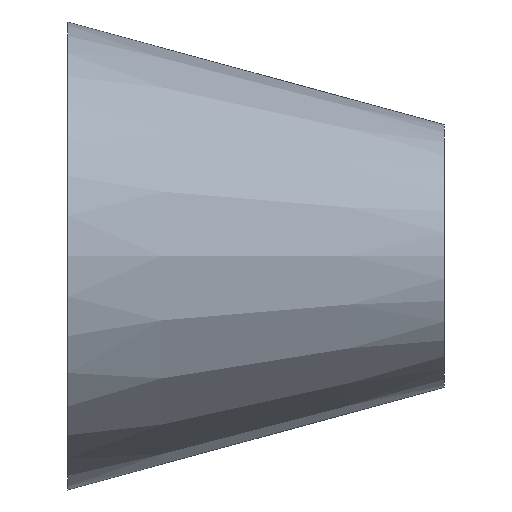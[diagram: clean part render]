
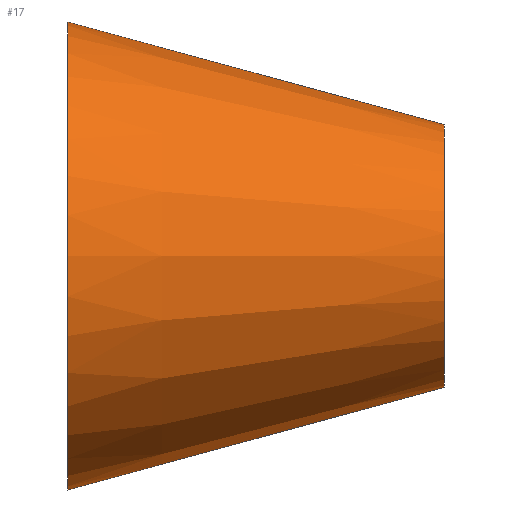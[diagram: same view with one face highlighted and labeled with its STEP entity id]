
A CAD part, front view. The second image highlights one B-rep face of the part: STEP entity #17.
In plain terms, the highlighted conical face has half-angle 15.255 degrees and reference radius 20.5 mm.
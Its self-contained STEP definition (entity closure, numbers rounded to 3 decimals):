
#17 = ADVANCED_FACE('',(#18),#31,.T.);
#18 = FACE_BOUND('',#19,.T.);
#19 = EDGE_LOOP('',(#20,#54,#74,#101));
#20 = ORIENTED_EDGE('',*,*,#21,.T.);
#21 = EDGE_CURVE('',#22,#22,#24,.T.);
#22 = VERTEX_POINT('',#23);
#23 = CARTESIAN_POINT('',(0.,20.5,0.));
#24 = SURFACE_CURVE('',#25,(#30,#42),.PCURVE_S1.);
#25 = CIRCLE('',#26,20.5);
#26 = AXIS2_PLACEMENT_3D('',#27,#28,#29);
#27 = CARTESIAN_POINT('',(0.,0.,0.));
#28 = DIRECTION('',(1.,0.,0.));
#29 = DIRECTION('',(0.,1.,0.));
#30 = PCURVE('',#31,#36);
#31 = CONICAL_SURFACE('',#32,20.5,0.266);
#32 = AXIS2_PLACEMENT_3D('',#33,#34,#35);
#33 = CARTESIAN_POINT('',(0.,0.,0.));
#34 = DIRECTION('',(-1.,-0.,-0.));
#35 = DIRECTION('',(0.,1.,0.));
#36 = DEFINITIONAL_REPRESENTATION('',(#37),#41);
#37 = LINE('',#38,#39);
#38 = CARTESIAN_POINT('',(-0.,-0.));
#39 = VECTOR('',#40,1.);
#40 = DIRECTION('',(-1.,-0.));
#41 = ( GEOMETRIC_REPRESENTATION_CONTEXT(2) 
PARAMETRIC_REPRESENTATION_CONTEXT() REPRESENTATION_CONTEXT('2D SPACE',''
  ) );
#42 = PCURVE('',#43,#48);
#43 = PLANE('',#44);
#44 = AXIS2_PLACEMENT_3D('',#45,#46,#47);
#45 = CARTESIAN_POINT('',(0.,0.,0.));
#46 = DIRECTION('',(1.,0.,0.));
#47 = DIRECTION('',(0.,1.,0.));
#48 = DEFINITIONAL_REPRESENTATION('',(#49),#53);
#49 = CIRCLE('',#50,20.5);
#50 = AXIS2_PLACEMENT_2D('',#51,#52);
#51 = CARTESIAN_POINT('',(0.,0.));
#52 = DIRECTION('',(1.,0.));
#53 = ( GEOMETRIC_REPRESENTATION_CONTEXT(2) 
PARAMETRIC_REPRESENTATION_CONTEXT() REPRESENTATION_CONTEXT('2D SPACE',''
  ) );
#54 = ORIENTED_EDGE('',*,*,#55,.T.);
#55 = EDGE_CURVE('',#22,#56,#58,.T.);
#56 = VERTEX_POINT('',#57);
#57 = CARTESIAN_POINT('',(33.,11.5,0.));
#58 = SEAM_CURVE('',#59,(#62,#68),.PCURVE_S1.);
#59 = B_SPLINE_CURVE_WITH_KNOTS('',1,(#60,#61),.UNSPECIFIED.,.F.,.F.,(2,
    2),(0.,1.),.PIECEWISE_BEZIER_KNOTS.);
#60 = CARTESIAN_POINT('',(0.,20.5,0.));
#61 = CARTESIAN_POINT('',(33.,11.5,0.));
#62 = PCURVE('',#31,#63);
#63 = DEFINITIONAL_REPRESENTATION('',(#64),#67);
#64 = B_SPLINE_CURVE_WITH_KNOTS('',1,(#65,#66),.UNSPECIFIED.,.F.,.F.,(2,
    2),(0.,1.),.PIECEWISE_BEZIER_KNOTS.);
#65 = CARTESIAN_POINT('',(-6.283,0.));
#66 = CARTESIAN_POINT('',(-6.283,-33.));
#67 = ( GEOMETRIC_REPRESENTATION_CONTEXT(2) 
PARAMETRIC_REPRESENTATION_CONTEXT() REPRESENTATION_CONTEXT('2D SPACE',''
  ) );
#68 = PCURVE('',#31,#69);
#69 = DEFINITIONAL_REPRESENTATION('',(#70),#73);
#70 = B_SPLINE_CURVE_WITH_KNOTS('',1,(#71,#72),.UNSPECIFIED.,.F.,.F.,(2,
    2),(0.,1.),.PIECEWISE_BEZIER_KNOTS.);
#71 = CARTESIAN_POINT('',(0.,0.));
#72 = CARTESIAN_POINT('',(0.,-33.));
#73 = ( GEOMETRIC_REPRESENTATION_CONTEXT(2) 
PARAMETRIC_REPRESENTATION_CONTEXT() REPRESENTATION_CONTEXT('2D SPACE',''
  ) );
#74 = ORIENTED_EDGE('',*,*,#75,.F.);
#75 = EDGE_CURVE('',#56,#56,#76,.T.);
#76 = SURFACE_CURVE('',#77,(#82,#89),.PCURVE_S1.);
#77 = CIRCLE('',#78,11.5);
#78 = AXIS2_PLACEMENT_3D('',#79,#80,#81);
#79 = CARTESIAN_POINT('',(33.,0.,0.));
#80 = DIRECTION('',(1.,0.,0.));
#81 = DIRECTION('',(0.,1.,0.));
#82 = PCURVE('',#31,#83);
#83 = DEFINITIONAL_REPRESENTATION('',(#84),#88);
#84 = LINE('',#85,#86);
#85 = CARTESIAN_POINT('',(-0.,-33.));
#86 = VECTOR('',#87,1.);
#87 = DIRECTION('',(-1.,-0.));
#88 = ( GEOMETRIC_REPRESENTATION_CONTEXT(2) 
PARAMETRIC_REPRESENTATION_CONTEXT() REPRESENTATION_CONTEXT('2D SPACE',''
  ) );
#89 = PCURVE('',#90,#95);
#90 = PLANE('',#91);
#91 = AXIS2_PLACEMENT_3D('',#92,#93,#94);
#92 = CARTESIAN_POINT('',(33.,0.,0.));
#93 = DIRECTION('',(1.,0.,0.));
#94 = DIRECTION('',(0.,1.,0.));
#95 = DEFINITIONAL_REPRESENTATION('',(#96),#100);
#96 = CIRCLE('',#97,11.5);
#97 = AXIS2_PLACEMENT_2D('',#98,#99);
#98 = CARTESIAN_POINT('',(0.,0.));
#99 = DIRECTION('',(1.,0.));
#100 = ( GEOMETRIC_REPRESENTATION_CONTEXT(2) 
PARAMETRIC_REPRESENTATION_CONTEXT() REPRESENTATION_CONTEXT('2D SPACE',''
  ) );
#101 = ORIENTED_EDGE('',*,*,#55,.F.);
